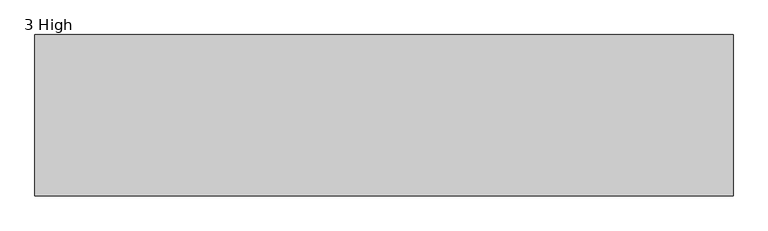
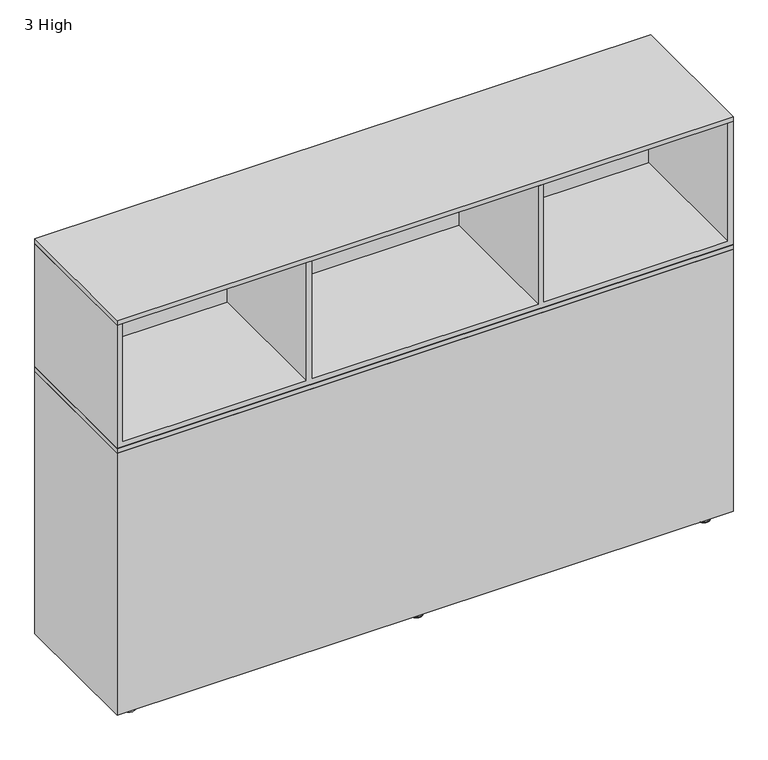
"""IFC4 building model written with IfcOpenShell, lengths in millimetres: furniture geometry, Steelcase Turnstone - Bivi - Storage - Depot : 3 High."""

from ifc_helpers import new_model, si_unit, point, frame, frame_2d, origin, place, context, project, spatial, polyline, circle_curve, ellipse_curve, trimmed, segment, composite_curve, outline, extrude, faceted_brep, source, transform, mapped, element, save
from ifc_brep_helpers import plane_surface, cylinder_surface, revolved_surface, spline_surface, advanced_brep


def furniture_3_high_ace3691c(model_context):
    return source(origin(), model_context, "Body", "SolidModel", [
        extrude(outline(polyline([(1524.0, 0.0), (1524.0, -352.425), (0.0, -352.425), (0.0, 0.0), (1524.0, 0.0)])), frame((0.0, 0.0, 711.2), z_axis=(0.0, 0.0, 1.0), x_axis=(1.0, 0.0, 0.0)), (0.0, 0.0, 1.0), 11.8411135),
        extrude(outline(polyline([(1524.0, 0.0), (1524.0, -352.425), (0.0, -352.425), (0.0, 0.0), (1524.0, 0.0)])), frame((0.0, 0.0, 1045.1923436), z_axis=(0.0, 0.0, 1.0), x_axis=(1.0, 0.0, 0.0)), (0.0, 0.0, 1.0), 12.5983953),
        faceted_brep([(1524.0, 0.0, 1045.1923436), (1524.0, -352.425, 1045.1923436), (1524.0, -352.425, 723.9), (1524.0, 0.0, 723.9), (0.0, 0.0, 1045.1923436), (0.0, 0.0, 723.9), (0.0, -352.425, 723.9), (0.0, -352.425, 1045.1923436), (1510.9189671, -352.425, 1045.1923436), (1510.9189671, -352.425, 736.6), (1054.3793919, -352.425, 736.6), (1054.3793919, -352.425, 1045.1923436), (1041.2984316, -352.425, 1045.1923436), (1041.2984316, -352.425, 736.6), (481.3553933, -352.425, 736.6), (481.3553933, -352.425, 1045.1923436), (468.2743967, -352.425, 1045.1923436), (468.2743967, -352.425, 736.6), (13.081, -352.425, 736.6), (13.081, -352.425, 1045.1923436), (13.081, -13.208, 1045.1923436), (468.2743967, -13.208, 1045.1923436), (481.3553933, -13.208, 1045.1923436), (1041.2984316, -13.208, 1045.1923436), (1054.3793919, -13.208, 1045.1923436), (1510.9189671, -13.208, 1045.1923436), (13.081, -13.208, 736.6), (468.2743967, -13.208, 736.6), (481.3553933, -13.208, 736.6), (1041.2984316, -13.208, 736.6), (1054.3793919, -13.208, 736.6), (1510.9189671, -13.208, 736.6)], [[[0, 1, 2, 3]], [[4, 5, 6, 7]], [[3, 5, 4, 0]], [[2, 6, 5, 3]], [[1, 8, 9, 10, 11, 12, 13, 14, 15, 16, 17, 18, 19, 7, 6, 2]], [[0, 4, 7, 19, 20, 21, 16, 15, 22, 23, 12, 11, 24, 25, 8, 1]], [[20, 19, 18, 26]], [[26, 18, 17, 27]], [[27, 17, 16, 21]], [[22, 15, 14, 28]], [[28, 14, 13, 29]], [[29, 13, 12, 23]], [[24, 11, 10, 30]], [[30, 10, 9, 31]], [[31, 9, 8, 25]], [[25, 24, 30, 31]], [[23, 22, 28, 29]], [[21, 20, 26, 27]]]),
        advanced_brep(
        [(776.7323801, -38.0780241, 2.6178944), (762.0156381, -38.0780241, 2.6178944), (747.2988961, -38.0780241, 2.6178944), (769.706563, -38.0780241, 8.8411838), (754.3247132, -38.0780241, 8.8411838), (769.706563, -38.0780241, 10.8986525), (754.3247132, -38.0780241, 10.8986525), (762.0156381, -38.0780241, 10.8986525)],
        [
            (0, 1),
            (1, 2),
            (2, 0, circle_curve(frame((762.0156381, -38.0780241, 2.6178944), z_axis=(0.0, 0.0, -1.0), x_axis=(-1.0, 0.0, 0.0)), 14.716742)),
            (0, 2, circle_curve(frame((762.0156381, -38.0780241, 2.6178944), z_axis=(0.0, 0.0, -1.0), x_axis=(-1.0, 0.0, 0.0)), 14.716742)),
            (3, 0, circle_curve(frame((776.0093917, -38.0780241, 8.8792349), z_axis=(0.0, -1.0, 0.0), x_axis=(-1.0, 0.0, 0.0)), 6.3029436)),
            (2, 4, circle_curve(frame((748.0218845, -38.0780241, 8.8792349), z_axis=(0.0, -1.0, 0.0), x_axis=(1.0, 0.0, 0.0)), 6.3029436)),
            (4, 3, circle_curve(frame((762.0156381, -38.0780241, 8.8411838), z_axis=(0.0, 0.0, -1.0), x_axis=(-1.0, 0.0, 0.0)), 7.6909249)),
            (3, 4, circle_curve(frame((762.0156381, -38.0780241, 8.8411838), z_axis=(0.0, 0.0, -1.0), x_axis=(-1.0, 0.0, 0.0)), 7.6909249)),
            (5, 3),
            (4, 6),
            (6, 5, circle_curve(frame((762.0156381, -38.0780241, 10.8986525), z_axis=(0.0, 0.0, -1.0), x_axis=(-1.0, 0.0, 0.0)), 7.6909249)),
            (5, 6, circle_curve(frame((762.0156381, -38.0780241, 10.8986525), z_axis=(0.0, 0.0, -1.0), x_axis=(-1.0, 0.0, 0.0)), 7.6909249)),
            (7, 5),
            (6, 7),
        ],
        [
            plane_surface(frame((762.0156381, -38.0780241, 2.6178944), z_axis=(0.0, 0.0, -1.0), x_axis=(-1.0, 0.0, 0.0))),
            revolved_surface(trimmed(ellipse_curve(frame((748.0218845, -38.0780241, 8.8792349), z_axis=(0.0, -1.0, 0.0), x_axis=(1.0, 0.0, 0.0)), 6.3029436, 6.3029436), [point((747.2988961, -38.0780241, 2.6178944))], [point((754.3247132, -38.0780241, 8.8411838))], True, "CARTESIAN"), (762.0156381, -38.0780241, 10.8986525), (0.0, 0.0, 1.0)),
            cylinder_surface(frame((762.0156381, -38.0780241, 10.8986525), z_axis=(0.0, 0.0, 1.0), x_axis=(-1.0, 0.0, 0.0)), 7.6909249),
            plane_surface(frame((762.0156381, -38.0780241, 10.8986525), z_axis=(0.0, 0.0, 1.0), x_axis=(-1.0, 0.0, 0.0))),
        ],
        [
            (0, [[1, 2, 3]]),
            (0, [[-2, -1, 4]]),
            (1, [[5, -3, 6, 7]]),
            (1, [[-6, -4, -5, 8]]),
            (2, [[9, -7, 10, 11]]),
            (2, [[-10, -8, -9, 12]]),
            (3, [[13, -11, 14]]),
            (3, [[-14, -12, -13]]),
        ],
    ),
        advanced_brep(
        [(775.1743443, -38.0780241, 0.0), (762.0269522, -38.0780241, 0.0), (748.8795601, -38.0780241, 0.0), (776.7550083, -38.0780241, 1.580664), (747.2988961, -38.0780241, 1.580664), (776.7550083, -38.0780241, 2.6178944), (747.2988961, -38.0780241, 2.6178944), (762.0269522, -38.0780241, 2.6178944)],
        [
            (0, 1),
            (1, 2),
            (2, 0, circle_curve(frame((762.0269522, -38.0780241, 0.0), z_axis=(0.0, 0.0, -1.0), x_axis=(-1.0, 0.0, 0.0)), 13.1473921)),
            (0, 2, circle_curve(frame((762.0269522, -38.0780241, 0.0), z_axis=(0.0, 0.0, -1.0), x_axis=(-1.0, 0.0, 0.0)), 13.1473921)),
            (3, 0, circle_curve(frame((775.1743443, -38.0780241, 1.580664), z_axis=(0.0, 1.0, 0.0), x_axis=(-1.0, 0.0, 0.0)), 1.580664)),
            (2, 4, circle_curve(frame((748.8795601, -38.0780241, 1.580664), z_axis=(0.0, 1.0, 0.0), x_axis=(1.0, 0.0, 0.0)), 1.580664)),
            (4, 3, circle_curve(frame((762.0269522, -38.0780241, 1.580664), z_axis=(0.0, 0.0, -1.0), x_axis=(-1.0, 0.0, 0.0)), 14.7280561)),
            (3, 4, circle_curve(frame((762.0269522, -38.0780241, 1.580664), z_axis=(0.0, 0.0, -1.0), x_axis=(-1.0, 0.0, 0.0)), 14.7280561)),
            (5, 3),
            (4, 6),
            (6, 5, circle_curve(frame((762.0269522, -38.0780241, 2.6178944), z_axis=(0.0, 0.0, -1.0), x_axis=(-1.0, 0.0, 0.0)), 14.7280561)),
            (5, 6, circle_curve(frame((762.0269522, -38.0780241, 2.6178944), z_axis=(0.0, 0.0, -1.0), x_axis=(-1.0, 0.0, 0.0)), 14.7280561)),
            (7, 5),
            (6, 7),
        ],
        [
            plane_surface(frame((762.0269522, -38.0780241, 0.0), z_axis=(0.0, 0.0, -1.0), x_axis=(-1.0, 0.0, 0.0))),
            revolved_surface(trimmed(ellipse_curve(frame((748.8795601, -38.0780241, 1.580664), z_axis=(0.0, 1.0, 0.0), x_axis=(1.0, 0.0, 0.0)), 1.580664, 1.580664), [point((748.8795601, -38.0780241, 0.0))], [point((747.2988961, -38.0780241, 1.580664))], True, "CARTESIAN"), (762.0269522, -38.0780241, 2.6178944), (0.0, 0.0, 1.0)),
            cylinder_surface(frame((762.0269522, -38.0780241, 2.6178944), z_axis=(0.0, 0.0, 1.0), x_axis=(-1.0, 0.0, 0.0)), 14.7280561),
            plane_surface(frame((762.0269522, -38.0780241, 2.6178944), z_axis=(0.0, 0.0, 1.0), x_axis=(-1.0, 0.0, 0.0))),
        ],
        [
            (0, [[1, 2, 3]]),
            (0, [[-2, -1, 4]]),
            (1, [[5, -3, 6, 7]]),
            (1, [[-6, -4, -5, 8]]),
            (2, [[9, -7, 10, 11]]),
            (2, [[-10, -8, -9, 12]]),
            (3, [[13, -11, 14]]),
            (3, [[-14, -12, -13]]),
        ],
    ),
        extrude(outline(composite_curve([segment(trimmed(circle_curve(frame_2d((762.0156381, -38.1183079)), 3.9557313), [point((758.0599068, -38.1183079))], [point((765.9713694, -38.1183079))], False, "CARTESIAN"), True, "CONTINUOUS"), segment(trimmed(circle_curve(frame_2d((762.0156381, -38.1183079)), 3.9557313), [point((765.9713694, -38.1183079))], [point((758.0599068, -38.1183079))], False, "CARTESIAN"), True, "CONTINUOUS")], self_intersect=False)), frame((0.0, 0.0, 10.8986525), z_axis=(0.0, 0.0, 1.0), x_axis=(1.0, 0.0, 0.0)), (0.0, 0.0, 1.0), 11.6640053),
        advanced_brep(
        [(758.0822362, -38.1098067, 22.5626578), (765.9722002, -38.1098067, 22.5626578), (759.079, -38.1098067, 23.622), (764.9502172, -38.1098067, 23.622)],
        [
            (0, 1, circle_curve(frame((762.0272182, -38.1098067, 22.5626578), z_axis=(0.0, 0.0, -1.0), x_axis=(1.0, 0.0, 0.0)), 3.944982)),
            (1, 0, circle_curve(frame((762.0272182, -38.1098067, 22.5626578), z_axis=(0.0, 0.0, -1.0), x_axis=(1.0, 0.0, 0.0)), 3.944982)),
            (2, 3, circle_curve(frame((762.0146086, -38.1098067, 23.622), z_axis=(0.0, 0.0, 1.0), x_axis=(1.0, 0.0, 0.0)), 2.9356086)),
            (3, 2, circle_curve(frame((762.0146086, -38.1098067, 23.622), z_axis=(0.0, 0.0, 1.0), x_axis=(1.0, 0.0, 0.0)), 2.9356086)),
            (2, 0),
            (1, 3),
        ],
        [
            plane_surface(frame((762.0272182, -38.1098067, 22.5626578), z_axis=(0.0, 0.0, -1.0), x_axis=(0.0, 1.0, 0.0))),
            plane_surface(frame((762.0146086, -38.1098067, 23.622), z_axis=(0.0, 0.0, 1.0), x_axis=(0.0, 1.0, 0.0))),
            spline_surface(1, 2, [[(759.079, -38.1098067, 23.622), (759.079, -41.04541530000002, 23.622), (762.0146086, -41.04541530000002, 23.622), (764.9502172, -41.04541530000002, 23.622), (764.9502172, -38.1098067, 23.622)], [(758.0822362, -38.1098067, 22.5626578), (758.0822362, -42.05478869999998, 22.5626578), (762.0272182, -42.05478869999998, 22.5626578), (765.9722002, -42.05478869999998, 22.5626578), (765.9722002, -38.1098067, 22.5626578)]], [2, 2], [3, 2, 3], [0.0, 1.0], [0.0, 1.0, 2.0], weights=[[1.0, 0.7071067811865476, 1.0, 0.7071067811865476, 1.0], [1.0, 0.7071067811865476, 1.0, 0.7071067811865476, 1.0]]),
            spline_surface(1, 2, [[(764.9502172, -38.1098067, 23.622), (764.9502172, -35.17419809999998, 23.622), (762.0146086, -35.17419809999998, 23.622), (759.079, -35.17419809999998, 23.622), (759.079, -38.1098067, 23.622)], [(765.9722002, -38.1098067, 22.5626578), (765.9722002, -34.16482470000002, 22.5626578), (762.0272182, -34.16482470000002, 22.5626578), (758.0822362, -34.16482470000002, 22.5626578), (758.0822362, -38.1098067, 22.5626578)]], [2, 2], [3, 2, 3], [0.0, 1.0], [0.0, 1.0, 2.0], weights=[[1.0, 0.7071067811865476, 1.0, 0.7071067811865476, 1.0], [1.0, 0.7071067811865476, 1.0, 0.7071067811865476, 1.0]]),
        ],
        [
            (0, [[1, 2]]),
            (1, [[3, 4]]),
            (2, [[5, -2, 6, -3]]),
            (3, [[-6, -1, -5, -4]]),
        ],
    ),
        advanced_brep(
        [(769.706563, -314.3469759, 10.8986525), (762.0156381, -314.3469759, 10.8986525), (754.3247132, -314.3469759, 10.8986525), (769.706563, -314.3469759, 8.8411838), (754.3247132, -314.3469759, 8.8411838), (776.7323801, -314.3469759, 2.6178944), (747.2988961, -314.3469759, 2.6178944), (762.0156381, -314.3469759, 2.6178944)],
        [
            (0, 1),
            (1, 2),
            (2, 0, circle_curve(frame((762.0156381, -314.3469759, 10.8986525), z_axis=(0.0, 0.0, 1.0), x_axis=(-1.0, 0.0, 0.0)), 7.6909249)),
            (0, 2, circle_curve(frame((762.0156381, -314.3469759, 10.8986525), z_axis=(0.0, 0.0, 1.0), x_axis=(-1.0, 0.0, 0.0)), 7.6909249)),
            (3, 0),
            (2, 4),
            (4, 3, circle_curve(frame((762.0156381, -314.3469759, 8.8411838), z_axis=(0.0, 0.0, 1.0), x_axis=(-1.0, 0.0, 0.0)), 7.6909249)),
            (3, 4, circle_curve(frame((762.0156381, -314.3469759, 8.8411838), z_axis=(0.0, 0.0, 1.0), x_axis=(-1.0, 0.0, 0.0)), 7.6909249)),
            (5, 3, circle_curve(frame((776.0093917, -314.3469759, 8.8792349), z_axis=(0.0, 1.0, 0.0), x_axis=(-1.0, 0.0, 0.0)), 6.3029436)),
            (4, 6, circle_curve(frame((748.0218845, -314.3469759, 8.8792349), z_axis=(0.0, 1.0, 0.0), x_axis=(1.0, 0.0, 0.0)), 6.3029436)),
            (6, 5, circle_curve(frame((762.0156381, -314.3469759, 2.6178944), z_axis=(0.0, 0.0, 1.0), x_axis=(-1.0, 0.0, 0.0)), 14.716742)),
            (5, 6, circle_curve(frame((762.0156381, -314.3469759, 2.6178944), z_axis=(0.0, 0.0, 1.0), x_axis=(-1.0, 0.0, 0.0)), 14.716742)),
            (7, 5),
            (6, 7),
        ],
        [
            plane_surface(frame((762.0156381, -314.3469759, 10.8986525), z_axis=(0.0, 0.0, 1.0), x_axis=(-1.0, 0.0, 0.0))),
            cylinder_surface(frame((762.0156381, -314.3469759, 10.8986525), z_axis=(0.0, 0.0, -1.0), x_axis=(-1.0, 0.0, 0.0)), 7.6909249),
            revolved_surface(trimmed(ellipse_curve(frame((748.0218845, -314.3469759, 8.8792349), z_axis=(0.0, 1.0, 0.0), x_axis=(1.0, 0.0, 0.0)), 6.3029436, 6.3029436), [point((754.3247132, -314.3469759, 8.8411838))], [point((747.2988961, -314.3469759, 2.6178944))], True, "CARTESIAN"), (762.0156381, -314.3469759, 10.8986525), (0.0, 0.0, -1.0)),
            plane_surface(frame((762.0156381, -314.3469759, 2.6178944), z_axis=(0.0, 0.0, -1.0), x_axis=(-1.0, 0.0, 0.0))),
        ],
        [
            (0, [[1, 2, 3]]),
            (0, [[-2, -1, 4]]),
            (1, [[5, -3, 6, 7]]),
            (1, [[-6, -4, -5, 8]]),
            (2, [[9, -7, 10, 11]]),
            (2, [[-10, -8, -9, 12]]),
            (3, [[13, -11, 14]]),
            (3, [[-14, -12, -13]]),
        ],
    ),
        advanced_brep(
        [(776.7550083, -314.3469759, 2.6178944), (762.0269522, -314.3469759, 2.6178944), (747.2988961, -314.3469759, 2.6178944), (776.7550083, -314.3469759, 1.580664), (747.2988961, -314.3469759, 1.580664), (775.1743443, -314.3469759, 0.0), (748.8795601, -314.3469759, 0.0), (762.0269522, -314.3469759, 0.0)],
        [
            (0, 1),
            (1, 2),
            (2, 0, circle_curve(frame((762.0269522, -314.3469759, 2.6178944), z_axis=(0.0, 0.0, 1.0), x_axis=(-1.0, 0.0, 0.0)), 14.7280561)),
            (0, 2, circle_curve(frame((762.0269522, -314.3469759, 2.6178944), z_axis=(0.0, 0.0, 1.0), x_axis=(-1.0, 0.0, 0.0)), 14.7280561)),
            (3, 0),
            (2, 4),
            (4, 3, circle_curve(frame((762.0269522, -314.3469759, 1.580664), z_axis=(0.0, 0.0, 1.0), x_axis=(-1.0, 0.0, 0.0)), 14.7280561)),
            (3, 4, circle_curve(frame((762.0269522, -314.3469759, 1.580664), z_axis=(0.0, 0.0, 1.0), x_axis=(-1.0, 0.0, 0.0)), 14.7280561)),
            (5, 3, circle_curve(frame((775.1743443, -314.3469759, 1.580664), z_axis=(0.0, -1.0, 0.0), x_axis=(-1.0, 0.0, 0.0)), 1.580664)),
            (4, 6, circle_curve(frame((748.8795601, -314.3469759, 1.580664), z_axis=(0.0, -1.0, 0.0), x_axis=(1.0, 0.0, 0.0)), 1.580664)),
            (6, 5, circle_curve(frame((762.0269522, -314.3469759, 0.0), z_axis=(0.0, 0.0, 1.0), x_axis=(-1.0, 0.0, 0.0)), 13.1473921)),
            (5, 6, circle_curve(frame((762.0269522, -314.3469759, 0.0), z_axis=(0.0, 0.0, 1.0), x_axis=(-1.0, 0.0, 0.0)), 13.1473921)),
            (7, 5),
            (6, 7),
        ],
        [
            plane_surface(frame((762.0269522, -314.3469759, 2.6178944), z_axis=(0.0, 0.0, 1.0), x_axis=(-1.0, 0.0, 0.0))),
            cylinder_surface(frame((762.0269522, -314.3469759, 2.6178944), z_axis=(0.0, 0.0, -1.0), x_axis=(-1.0, 0.0, 0.0)), 14.7280561),
            revolved_surface(trimmed(ellipse_curve(frame((748.8795601, -314.3469759, 1.580664), z_axis=(0.0, -1.0, 0.0), x_axis=(1.0, 0.0, 0.0)), 1.580664, 1.580664), [point((747.2988961, -314.3469759, 1.580664))], [point((748.8795601, -314.3469759, 0.0))], True, "CARTESIAN"), (762.0269522, -314.3469759, 2.6178944), (0.0, 0.0, -1.0)),
            plane_surface(frame((762.0269522, -314.3469759, 0.0), z_axis=(0.0, 0.0, -1.0), x_axis=(-1.0, 0.0, 0.0))),
        ],
        [
            (0, [[1, 2, 3]]),
            (0, [[-2, -1, 4]]),
            (1, [[5, -3, 6, 7]]),
            (1, [[-6, -4, -5, 8]]),
            (2, [[9, -7, 10, 11]]),
            (2, [[-10, -8, -9, 12]]),
            (3, [[13, -11, 14]]),
            (3, [[-14, -12, -13]]),
        ],
    ),
        extrude(outline(composite_curve([segment(trimmed(circle_curve(frame_2d((762.0156381, -314.3066921)), 3.9557313), [point((758.0599068, -314.3066921))], [point((765.9713694, -314.3066921))], False, "CARTESIAN"), True, "CONTINUOUS"), segment(trimmed(circle_curve(frame_2d((762.0156381, -314.3066921)), 3.9557313), [point((765.9713694, -314.3066921))], [point((758.0599068, -314.3066921))], False, "CARTESIAN"), True, "CONTINUOUS")], self_intersect=False)), frame((0.0, 0.0, 10.8986525), z_axis=(0.0, 0.0, 1.0), x_axis=(1.0, 0.0, 0.0)), (0.0, 0.0, 1.0), 11.6640053),
        advanced_brep(
        [(758.0822362, -314.3151933, 22.5626578), (765.9722002, -314.3151933, 22.5626578), (759.079, -314.3151933, 23.622), (764.9502172, -314.3151933, 23.622)],
        [
            (0, 1, circle_curve(frame((762.0272182, -314.3151933, 22.5626578), z_axis=(0.0, 0.0, -1.0), x_axis=(1.0, 0.0, 0.0)), 3.944982)),
            (1, 0, circle_curve(frame((762.0272182, -314.3151933, 22.5626578), z_axis=(0.0, 0.0, -1.0), x_axis=(1.0, 0.0, 0.0)), 3.944982)),
            (2, 3, circle_curve(frame((762.0146086, -314.3151933, 23.622), z_axis=(0.0, 0.0, 1.0), x_axis=(1.0, 0.0, 0.0)), 2.9356086)),
            (3, 2, circle_curve(frame((762.0146086, -314.3151933, 23.622), z_axis=(0.0, 0.0, 1.0), x_axis=(1.0, 0.0, 0.0)), 2.9356086)),
            (2, 0),
            (1, 3),
        ],
        [
            plane_surface(frame((762.0272182, -314.3151933, 22.5626578), z_axis=(0.0, 0.0, -1.0), x_axis=(0.0, 1.0, 0.0))),
            plane_surface(frame((762.0146086, -314.3151933, 23.622), z_axis=(0.0, 0.0, 1.0), x_axis=(0.0, 1.0, 0.0))),
            spline_surface(1, 2, [[(759.079, -314.3151933, 23.622), (759.079, -317.2508019, 23.622), (762.0146086, -317.2508019, 23.622), (764.9502172, -317.2508019, 23.622), (764.9502172, -314.3151933, 23.622)], [(758.0822362, -314.3151933, 22.5626578), (758.0822362, -318.26017529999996, 22.5626578), (762.0272182, -318.26017529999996, 22.5626578), (765.9722002, -318.26017529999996, 22.5626578), (765.9722002, -314.3151933, 22.5626578)]], [2, 2], [3, 2, 3], [0.0, 1.0], [0.0, 1.0, 2.0], weights=[[1.0, 0.7071067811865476, 1.0, 0.7071067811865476, 1.0], [1.0, 0.7071067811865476, 1.0, 0.7071067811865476, 1.0]]),
            spline_surface(1, 2, [[(764.9502172, -314.3151933, 23.622), (764.9502172, -311.37958469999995, 23.622), (762.0146086, -311.37958469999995, 23.622), (759.079, -311.37958469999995, 23.622), (759.079, -314.3151933, 23.622)], [(765.9722002, -314.3151933, 22.5626578), (765.9722002, -310.3702113, 22.5626578), (762.0272182, -310.3702113, 22.5626578), (758.0822362, -310.3702113, 22.5626578), (758.0822362, -314.3151933, 22.5626578)]], [2, 2], [3, 2, 3], [0.0, 1.0], [0.0, 1.0, 2.0], weights=[[1.0, 0.7071067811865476, 1.0, 0.7071067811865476, 1.0], [1.0, 0.7071067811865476, 1.0, 0.7071067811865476, 1.0]]),
        ],
        [
            (0, [[1, 2]]),
            (1, [[3, 4]]),
            (2, [[5, -2, 6, -3]]),
            (3, [[-6, -1, -5, -4]]),
        ],
    ),
        faceted_brep([(0.0, 0.0, 711.2), (13.081, 0.0, 711.2), (13.081, 0.0, 381.0), (468.2743967, 0.0, 381.0), (468.2743967, 0.0, 711.2), (481.3553933, 0.0, 711.2), (481.3553933, 0.0, 381.0), (1041.2984316, 0.0, 381.0), (1041.2984316, 0.0, 711.2), (1054.3793919, 0.0, 711.2), (1054.3793919, 0.0, 381.0), (1510.9189671, 0.0, 381.0), (1510.9189671, 0.0, 711.2), (1524.0, 0.0, 711.2), (1524.0, 0.0, 25.4), (0.0, 0.0, 25.4), (13.081, 0.0, 368.3), (13.081, 0.0, 38.1), (468.2743967, 0.0, 38.1), (468.2743967, 0.0, 368.3), (481.3553933, 0.0, 368.3), (481.3553933, 0.0, 38.1), (1041.2984316, 0.0, 38.1), (1041.2984316, 0.0, 368.3), (1054.3793919, 0.0, 368.3), (1054.3793919, 0.0, 38.1), (1510.9189671, 0.0, 38.1), (1510.9189671, 0.0, 368.3), (1524.0, -352.425, 711.2), (0.0, -352.425, 711.2), (0.0, -352.425, 25.4), (1524.0, -352.425, 25.4), (1510.9189671, -339.344, 711.2), (1054.3793919, -339.344, 711.2), (1041.2984316, -339.344, 711.2), (481.3553933, -339.344, 711.2), (468.2743967, -339.344, 711.2), (13.081, -339.344, 711.2), (468.2743967, -339.344, 381.0), (13.081, -339.344, 381.0), (1041.2984316, -339.344, 381.0), (481.3553933, -339.344, 381.0), (1510.9189671, -339.344, 381.0), (1054.3793919, -339.344, 381.0), (468.2743967, -339.344, 368.3), (468.2743967, -339.344, 38.1), (13.081, -339.344, 38.1), (13.081, -339.344, 368.3), (1041.2984316, -339.344, 368.3), (1041.2984316, -339.344, 38.1), (481.3553933, -339.344, 38.1), (481.3553933, -339.344, 368.3), (1510.9189671, -339.344, 368.3), (1510.9189671, -339.344, 38.1), (1054.3793919, -339.344, 38.1), (1054.3793919, -339.344, 368.3)], [[[0, 1, 2, 3, 4, 5, 6, 7, 8, 9, 10, 11, 12, 13, 14, 15], [16, 17, 18, 19], [20, 21, 22, 23], [24, 25, 26, 27]], [[28, 29, 30, 31]], [[28, 13, 12, 32, 33, 9, 8, 34, 35, 5, 4, 36, 37, 1, 0, 29]], [[15, 30, 29, 0]], [[14, 31, 30, 15]], [[13, 28, 31, 14]], [[37, 36, 38, 39]], [[35, 34, 40, 41]], [[33, 32, 42, 43]], [[44, 45, 46, 47]], [[48, 49, 50, 51]], [[52, 53, 54, 55]], [[39, 2, 1, 37]], [[38, 3, 2, 39]], [[36, 4, 3, 38]], [[41, 6, 5, 35]], [[40, 7, 6, 41]], [[34, 8, 7, 40]], [[43, 10, 9, 33]], [[42, 11, 10, 43]], [[32, 12, 11, 42]], [[47, 16, 19, 44]], [[46, 17, 16, 47]], [[45, 18, 17, 46]], [[44, 19, 18, 45]], [[51, 20, 23, 48]], [[50, 21, 20, 51]], [[49, 22, 21, 50]], [[48, 23, 22, 49]], [[55, 24, 27, 52]], [[54, 25, 24, 55]], [[53, 26, 25, 54]], [[52, 27, 26, 53]]]),
        extrude(outline(polyline([(25.4000008, -13.0809966), (76.2, -13.0809966), (76.2, -339.344), (25.4000008, -339.344), (25.4000008, -13.0809966)])), frame((0.0, 0.0, 15.8750011), z_axis=(0.0, 0.0, 1.0), x_axis=(1.0, 0.0, 0.0)), (0.0, 0.0, 1.0), 9.5249989),
        extrude(outline(polyline([(736.6000242, -13.0809966), (787.4000235, -13.0809966), (787.4000235, -339.344), (736.6000242, -339.344), (736.6000242, -13.0809966)])), frame((0.0, 0.0, 15.8750011), z_axis=(0.0, 0.0, 1.0), x_axis=(1.0, 0.0, 0.0)), (0.0, 0.0, 1.0), 9.5249989),
        extrude(outline(polyline([(1447.8, -13.0809966), (1498.5999992, -13.0809966), (1498.5999992, -339.344), (1447.8, -339.344), (1447.8, -13.0809966)])), frame((0.0, 0.0, 15.8750011), z_axis=(0.0, 0.0, 1.0), x_axis=(1.0, 0.0, 0.0)), (0.0, 0.0, 1.0), 9.5249989),
        advanced_brep(
        [(1465.5173965, -38.0780241, 10.8986525), (1473.2083214, -38.0780241, 10.8986525), (1480.8992463, -38.0780241, 10.8986525), (1465.5173965, -38.0780241, 8.8411838), (1480.8992463, -38.0780241, 8.8411838), (1458.4915794, -38.0780241, 2.6178944), (1487.9250634, -38.0780241, 2.6178944), (1473.2083214, -38.0780241, 2.6178944)],
        [
            (0, 1),
            (1, 2),
            (2, 0, circle_curve(frame((1473.2083214, -38.0780241, 10.8986525), z_axis=(0.0, 0.0, 1.0), x_axis=(1.0, 0.0, 0.0)), 7.6909249)),
            (0, 2, circle_curve(frame((1473.2083214, -38.0780241, 10.8986525), z_axis=(0.0, 0.0, 1.0), x_axis=(1.0, 0.0, 0.0)), 7.6909249)),
            (3, 0),
            (2, 4),
            (4, 3, circle_curve(frame((1473.2083214, -38.0780241, 8.8411838), z_axis=(0.0, 0.0, 1.0), x_axis=(1.0, 0.0, 0.0)), 7.6909249)),
            (3, 4, circle_curve(frame((1473.2083214, -38.0780241, 8.8411838), z_axis=(0.0, 0.0, 1.0), x_axis=(1.0, 0.0, 0.0)), 7.6909249)),
            (5, 3, circle_curve(frame((1459.2145678, -38.0780241, 8.8792349), z_axis=(0.0, -1.0, 0.0), x_axis=(1.0, 0.0, 0.0)), 6.3029436)),
            (4, 6, circle_curve(frame((1487.202075, -38.0780241, 8.8792349), z_axis=(0.0, -1.0, 0.0), x_axis=(-1.0, 0.0, 0.0)), 6.3029436)),
            (6, 5, circle_curve(frame((1473.2083214, -38.0780241, 2.6178944), z_axis=(0.0, 0.0, 1.0), x_axis=(1.0, 0.0, 0.0)), 14.716742)),
            (5, 6, circle_curve(frame((1473.2083214, -38.0780241, 2.6178944), z_axis=(0.0, 0.0, 1.0), x_axis=(1.0, 0.0, 0.0)), 14.716742)),
            (7, 5),
            (6, 7),
        ],
        [
            plane_surface(frame((1473.2083214, -38.0780241, 10.8986525), z_axis=(0.0, 0.0, 1.0), x_axis=(1.0, 0.0, 0.0))),
            cylinder_surface(frame((1473.2083214, -38.0780241, 10.8986525), z_axis=(0.0, 0.0, -1.0), x_axis=(1.0, 0.0, 0.0)), 7.6909249),
            revolved_surface(trimmed(ellipse_curve(frame((1487.202075, -38.0780241, 8.8792349), z_axis=(0.0, -1.0, 0.0), x_axis=(-1.0, 0.0, 0.0)), 6.3029436, 6.3029436), [point((1480.8992463, -38.0780241, 8.8411838))], [point((1487.9250634, -38.0780241, 2.6178944))], True, "CARTESIAN"), (1473.2083214, -38.0780241, 10.8986525), (0.0, 0.0, -1.0)),
            plane_surface(frame((1473.2083214, -38.0780241, 2.6178944), z_axis=(0.0, 0.0, -1.0), x_axis=(1.0, 0.0, 0.0))),
        ],
        [
            (0, [[1, 2, 3]]),
            (0, [[-2, -1, 4]]),
            (1, [[5, -3, 6, 7]]),
            (1, [[-6, -4, -5, 8]]),
            (2, [[9, -7, 10, 11]]),
            (2, [[-10, -8, -9, 12]]),
            (3, [[13, -11, 14]]),
            (3, [[-14, -12, -13]]),
        ],
    ),
        advanced_brep(
        [(1458.4689512, -38.0780241, 2.6178944), (1473.1970073, -38.0780241, 2.6178944), (1487.9250634, -38.0780241, 2.6178944), (1458.4689512, -38.0780241, 1.580664), (1487.9250634, -38.0780241, 1.580664), (1460.0496152, -38.0780241, 0.0), (1486.3443994, -38.0780241, 0.0), (1473.1970073, -38.0780241, 0.0)],
        [
            (0, 1),
            (1, 2),
            (2, 0, circle_curve(frame((1473.1970073, -38.0780241, 2.6178944), z_axis=(0.0, 0.0, 1.0), x_axis=(1.0, 0.0, 0.0)), 14.7280561)),
            (0, 2, circle_curve(frame((1473.1970073, -38.0780241, 2.6178944), z_axis=(0.0, 0.0, 1.0), x_axis=(1.0, 0.0, 0.0)), 14.7280561)),
            (3, 0),
            (2, 4),
            (4, 3, circle_curve(frame((1473.1970073, -38.0780241, 1.580664), z_axis=(0.0, 0.0, 1.0), x_axis=(1.0, 0.0, 0.0)), 14.7280561)),
            (3, 4, circle_curve(frame((1473.1970073, -38.0780241, 1.580664), z_axis=(0.0, 0.0, 1.0), x_axis=(1.0, 0.0, 0.0)), 14.7280561)),
            (5, 3, circle_curve(frame((1460.0496152, -38.0780241, 1.580664), z_axis=(0.0, 1.0, 0.0), x_axis=(1.0, 0.0, 0.0)), 1.580664)),
            (4, 6, circle_curve(frame((1486.3443994, -38.0780241, 1.580664), z_axis=(0.0, 1.0, 0.0), x_axis=(-1.0, 0.0, 0.0)), 1.580664)),
            (6, 5, circle_curve(frame((1473.1970073, -38.0780241, 0.0), z_axis=(0.0, 0.0, 1.0), x_axis=(1.0, 0.0, 0.0)), 13.1473921)),
            (5, 6, circle_curve(frame((1473.1970073, -38.0780241, 0.0), z_axis=(0.0, 0.0, 1.0), x_axis=(1.0, 0.0, 0.0)), 13.1473921)),
            (7, 5),
            (6, 7),
        ],
        [
            plane_surface(frame((1473.1970073, -38.0780241, 2.6178944), z_axis=(0.0, 0.0, 1.0), x_axis=(1.0, 0.0, 0.0))),
            cylinder_surface(frame((1473.1970073, -38.0780241, 2.6178944), z_axis=(0.0, 0.0, -1.0), x_axis=(1.0, 0.0, 0.0)), 14.7280561),
            revolved_surface(trimmed(ellipse_curve(frame((1486.3443994, -38.0780241, 1.580664), z_axis=(0.0, 1.0, 0.0), x_axis=(-1.0, 0.0, 0.0)), 1.580664, 1.580664), [point((1487.9250634, -38.0780241, 1.580664))], [point((1486.3443994, -38.0780241, 0.0))], True, "CARTESIAN"), (1473.1970073, -38.0780241, 2.6178944), (0.0, 0.0, -1.0)),
            plane_surface(frame((1473.1970073, -38.0780241, 0.0), z_axis=(0.0, 0.0, -1.0), x_axis=(1.0, 0.0, 0.0))),
        ],
        [
            (0, [[1, 2, 3]]),
            (0, [[-2, -1, 4]]),
            (1, [[5, -3, 6, 7]]),
            (1, [[-6, -4, -5, 8]]),
            (2, [[9, -7, 10, 11]]),
            (2, [[-10, -8, -9, 12]]),
            (3, [[13, -11, 14]]),
            (3, [[-14, -12, -13]]),
        ],
    ),
        extrude(outline(composite_curve([segment(trimmed(circle_curve(frame_2d((1473.2083214, -38.1183079)), 3.9557313), [point((1477.1640527, -38.1183079))], [point((1469.2525901, -38.1183079))], False, "CARTESIAN"), True, "CONTINUOUS"), segment(trimmed(circle_curve(frame_2d((1473.2083214, -38.1183079)), 3.9557313), [point((1469.2525901, -38.1183079))], [point((1477.1640527, -38.1183079))], False, "CARTESIAN"), True, "CONTINUOUS")], self_intersect=False)), frame((0.0, 0.0, 10.8986525), z_axis=(0.0, 0.0, 1.0), x_axis=(1.0, 0.0, 0.0)), (0.0, 0.0, 1.0), 11.6640053),
        advanced_brep(
        [(1477.1417233, -38.1098067, 22.5626578), (1469.2517593, -38.1098067, 22.5626578), (1476.1449595, -38.1098067, 23.622), (1470.2737423, -38.1098067, 23.622)],
        [
            (0, 1, circle_curve(frame((1473.1967413, -38.1098067, 22.5626578), z_axis=(0.0, 0.0, -1.0), x_axis=(-1.0, 0.0, 0.0)), 3.944982)),
            (1, 0, circle_curve(frame((1473.1967413, -38.1098067, 22.5626578), z_axis=(0.0, 0.0, -1.0), x_axis=(-1.0, 0.0, 0.0)), 3.944982)),
            (2, 3, circle_curve(frame((1473.2093509, -38.1098067, 23.622), z_axis=(0.0, 0.0, 1.0), x_axis=(-1.0, 0.0, 0.0)), 2.9356086)),
            (3, 2, circle_curve(frame((1473.2093509, -38.1098067, 23.622), z_axis=(0.0, 0.0, 1.0), x_axis=(-1.0, 0.0, 0.0)), 2.9356086)),
            (2, 0),
            (1, 3),
        ],
        [
            plane_surface(frame((1473.1967413, -38.1098067, 22.5626578), z_axis=(0.0, 0.0, -1.0), x_axis=(0.0, -1.0, 0.0))),
            plane_surface(frame((1473.2093509, -38.1098067, 23.622), z_axis=(0.0, 0.0, 1.0), x_axis=(0.0, -1.0, 0.0))),
            spline_surface(1, 2, [[(1476.1449595, -38.1098067, 23.622), (1476.1449595, -35.17419809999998, 23.622), (1473.2093509, -35.17419809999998, 23.622), (1470.2737422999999, -35.17419809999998, 23.622), (1470.2737423, -38.1098067, 23.622)], [(1477.1417233, -38.1098067, 22.5626578), (1477.1417233, -34.16482470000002, 22.5626578), (1473.1967413, -34.16482470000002, 22.5626578), (1469.2517593, -34.16482470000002, 22.5626578), (1469.2517593, -38.1098067, 22.5626578)]], [2, 2], [3, 2, 3], [0.0, 1.0], [0.0, 1.0, 2.0], weights=[[1.0, 0.7071067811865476, 1.0, 0.7071067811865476, 1.0], [1.0, 0.7071067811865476, 1.0, 0.7071067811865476, 1.0]]),
            spline_surface(1, 2, [[(1470.2737423, -38.1098067, 23.622), (1470.2737423, -41.045415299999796, 23.622), (1473.2093509, -41.045415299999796, 23.622), (1476.1449594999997, -41.045415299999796, 23.622), (1476.1449595, -38.1098067, 23.622)], [(1469.2517593, -38.1098067, 22.5626578), (1469.2517593, -42.05478869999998, 22.5626578), (1473.1967413, -42.05478869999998, 22.5626578), (1477.1417233, -42.05478869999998, 22.5626578), (1477.1417233, -38.1098067, 22.5626578)]], [2, 2], [3, 2, 3], [0.0, 1.0], [0.0, 1.0, 2.0], weights=[[1.0, 0.7071067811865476, 1.0, 0.7071067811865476, 1.0], [1.0, 0.7071067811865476, 1.0, 0.7071067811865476, 1.0]]),
        ],
        [
            (0, [[1, 2]]),
            (1, [[3, 4]]),
            (2, [[5, -2, 6, -3]]),
            (3, [[-6, -1, -5, -4]]),
        ],
    ),
        advanced_brep(
        [(65.5084206, -38.0780241, 2.6178944), (50.7916786, -38.0780241, 2.6178944), (36.0749366, -38.0780241, 2.6178944), (58.4826035, -38.0780241, 8.8411838), (43.1007537, -38.0780241, 8.8411838), (58.4826035, -38.0780241, 10.8986525), (43.1007537, -38.0780241, 10.8986525), (50.7916786, -38.0780241, 10.8986525)],
        [
            (0, 1),
            (1, 2),
            (2, 0, circle_curve(frame((50.7916786, -38.0780241, 2.6178944), z_axis=(0.0, 0.0, -1.0), x_axis=(-1.0, 0.0, 0.0)), 14.716742)),
            (0, 2, circle_curve(frame((50.7916786, -38.0780241, 2.6178944), z_axis=(0.0, 0.0, -1.0), x_axis=(-1.0, 0.0, 0.0)), 14.716742)),
            (3, 0, circle_curve(frame((64.7854322, -38.0780241, 8.8792349), z_axis=(0.0, -1.0, 0.0), x_axis=(-1.0, 0.0, 0.0)), 6.3029436)),
            (2, 4, circle_curve(frame((36.797925, -38.0780241, 8.8792349), z_axis=(0.0, -1.0, 0.0), x_axis=(1.0, 0.0, 0.0)), 6.3029436)),
            (4, 3, circle_curve(frame((50.7916786, -38.0780241, 8.8411838), z_axis=(0.0, 0.0, -1.0), x_axis=(-1.0, 0.0, 0.0)), 7.6909249)),
            (3, 4, circle_curve(frame((50.7916786, -38.0780241, 8.8411838), z_axis=(0.0, 0.0, -1.0), x_axis=(-1.0, 0.0, 0.0)), 7.6909249)),
            (5, 3),
            (4, 6),
            (6, 5, circle_curve(frame((50.7916786, -38.0780241, 10.8986525), z_axis=(0.0, 0.0, -1.0), x_axis=(-1.0, 0.0, 0.0)), 7.6909249)),
            (5, 6, circle_curve(frame((50.7916786, -38.0780241, 10.8986525), z_axis=(0.0, 0.0, -1.0), x_axis=(-1.0, 0.0, 0.0)), 7.6909249)),
            (7, 5),
            (6, 7),
        ],
        [
            plane_surface(frame((50.7916786, -38.0780241, 2.6178944), z_axis=(0.0, 0.0, -1.0), x_axis=(-1.0, 0.0, 0.0))),
            revolved_surface(trimmed(ellipse_curve(frame((36.797925, -38.0780241, 8.8792349), z_axis=(0.0, -1.0, 0.0), x_axis=(1.0, 0.0, 0.0)), 6.3029436, 6.3029436), [point((36.0749366, -38.0780241, 2.6178944))], [point((43.1007537, -38.0780241, 8.8411838))], True, "CARTESIAN"), (50.7916786, -38.0780241, 10.8986525), (0.0, 0.0, 1.0)),
            cylinder_surface(frame((50.7916786, -38.0780241, 10.8986525), z_axis=(0.0, 0.0, 1.0), x_axis=(-1.0, 0.0, 0.0)), 7.6909249),
            plane_surface(frame((50.7916786, -38.0780241, 10.8986525), z_axis=(0.0, 0.0, 1.0), x_axis=(-1.0, 0.0, 0.0))),
        ],
        [
            (0, [[1, 2, 3]]),
            (0, [[-2, -1, 4]]),
            (1, [[5, -3, 6, 7]]),
            (1, [[-6, -4, -5, 8]]),
            (2, [[9, -7, 10, 11]]),
            (2, [[-10, -8, -9, 12]]),
            (3, [[13, -11, 14]]),
            (3, [[-14, -12, -13]]),
        ],
    ),
        advanced_brep(
        [(63.9503848, -38.0780241, 0.0), (50.8029927, -38.0780241, 0.0), (37.6556006, -38.0780241, 0.0), (65.5310488, -38.0780241, 1.580664), (36.0749366, -38.0780241, 1.580664), (65.5310488, -38.0780241, 2.6178944), (36.0749366, -38.0780241, 2.6178944), (50.8029927, -38.0780241, 2.6178944)],
        [
            (0, 1),
            (1, 2),
            (2, 0, circle_curve(frame((50.8029927, -38.0780241, 0.0), z_axis=(0.0, 0.0, -1.0), x_axis=(-1.0, 0.0, 0.0)), 13.1473921)),
            (0, 2, circle_curve(frame((50.8029927, -38.0780241, 0.0), z_axis=(0.0, 0.0, -1.0), x_axis=(-1.0, 0.0, 0.0)), 13.1473921)),
            (3, 0, circle_curve(frame((63.9503848, -38.0780241, 1.580664), z_axis=(0.0, 1.0, 0.0), x_axis=(-1.0, 0.0, 0.0)), 1.580664)),
            (2, 4, circle_curve(frame((37.6556006, -38.0780241, 1.580664), z_axis=(0.0, 1.0, 0.0), x_axis=(1.0, 0.0, 0.0)), 1.580664)),
            (4, 3, circle_curve(frame((50.8029927, -38.0780241, 1.580664), z_axis=(0.0, 0.0, -1.0), x_axis=(-1.0, 0.0, 0.0)), 14.7280561)),
            (3, 4, circle_curve(frame((50.8029927, -38.0780241, 1.580664), z_axis=(0.0, 0.0, -1.0), x_axis=(-1.0, 0.0, 0.0)), 14.7280561)),
            (5, 3),
            (4, 6),
            (6, 5, circle_curve(frame((50.8029927, -38.0780241, 2.6178944), z_axis=(0.0, 0.0, -1.0), x_axis=(-1.0, 0.0, 0.0)), 14.7280561)),
            (5, 6, circle_curve(frame((50.8029927, -38.0780241, 2.6178944), z_axis=(0.0, 0.0, -1.0), x_axis=(-1.0, 0.0, 0.0)), 14.7280561)),
            (7, 5),
            (6, 7),
        ],
        [
            plane_surface(frame((50.8029927, -38.0780241, 0.0), z_axis=(0.0, 0.0, -1.0), x_axis=(-1.0, 0.0, 0.0))),
            revolved_surface(trimmed(ellipse_curve(frame((37.6556006, -38.0780241, 1.580664), z_axis=(0.0, 1.0, 0.0), x_axis=(1.0, 0.0, 0.0)), 1.580664, 1.580664), [point((37.6556006, -38.0780241, 0.0))], [point((36.0749366, -38.0780241, 1.580664))], True, "CARTESIAN"), (50.8029927, -38.0780241, 2.6178944), (0.0, 0.0, 1.0)),
            cylinder_surface(frame((50.8029927, -38.0780241, 2.6178944), z_axis=(0.0, 0.0, 1.0), x_axis=(-1.0, 0.0, 0.0)), 14.7280561),
            plane_surface(frame((50.8029927, -38.0780241, 2.6178944), z_axis=(0.0, 0.0, 1.0), x_axis=(-1.0, 0.0, 0.0))),
        ],
        [
            (0, [[1, 2, 3]]),
            (0, [[-2, -1, 4]]),
            (1, [[5, -3, 6, 7]]),
            (1, [[-6, -4, -5, 8]]),
            (2, [[9, -7, 10, 11]]),
            (2, [[-10, -8, -9, 12]]),
            (3, [[13, -11, 14]]),
            (3, [[-14, -12, -13]]),
        ],
    ),
        extrude(outline(composite_curve([segment(trimmed(circle_curve(frame_2d((50.7916786, -38.1183079)), 3.9557313), [point((46.8359473, -38.1183079))], [point((54.7474099, -38.1183079))], False, "CARTESIAN"), True, "CONTINUOUS"), segment(trimmed(circle_curve(frame_2d((50.7916786, -38.1183079)), 3.9557313), [point((54.7474099, -38.1183079))], [point((46.8359473, -38.1183079))], False, "CARTESIAN"), True, "CONTINUOUS")], self_intersect=False)), frame((0.0, 0.0, 10.8986525), z_axis=(0.0, 0.0, 1.0), x_axis=(1.0, 0.0, 0.0)), (0.0, 0.0, 1.0), 11.6640053),
        advanced_brep(
        [(46.8582767, -38.1098067, 22.5626578), (54.7482407, -38.1098067, 22.5626578), (47.8550405, -38.1098067, 23.622), (53.7262577, -38.1098067, 23.622)],
        [
            (0, 1, circle_curve(frame((50.8032587, -38.1098067, 22.5626578), z_axis=(0.0, 0.0, -1.0), x_axis=(1.0, 0.0, 0.0)), 3.944982)),
            (1, 0, circle_curve(frame((50.8032587, -38.1098067, 22.5626578), z_axis=(0.0, 0.0, -1.0), x_axis=(1.0, 0.0, 0.0)), 3.944982)),
            (2, 3, circle_curve(frame((50.7906491, -38.1098067, 23.622), z_axis=(0.0, 0.0, 1.0), x_axis=(1.0, 0.0, 0.0)), 2.9356086)),
            (3, 2, circle_curve(frame((50.7906491, -38.1098067, 23.622), z_axis=(0.0, 0.0, 1.0), x_axis=(1.0, 0.0, 0.0)), 2.9356086)),
            (2, 0),
            (1, 3),
        ],
        [
            plane_surface(frame((50.8032587, -38.1098067, 22.5626578), z_axis=(0.0, 0.0, -1.0), x_axis=(0.0, 1.0, 0.0))),
            plane_surface(frame((50.7906491, -38.1098067, 23.622), z_axis=(0.0, 0.0, 1.0), x_axis=(0.0, 1.0, 0.0))),
            spline_surface(1, 2, [[(47.8550405, -38.1098067, 23.622), (47.8550405, -41.0454153, 23.622), (50.7906491, -41.0454153, 23.622), (53.726257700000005, -41.04541530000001, 23.622), (53.7262577, -38.1098067, 23.622)], [(46.8582767, -38.1098067, 22.5626578), (46.8582767, -42.0547887, 22.5626578), (50.8032587, -42.0547887, 22.5626578), (54.748240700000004, -42.05478870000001, 22.5626578), (54.7482407, -38.1098067, 22.5626578)]], [2, 2], [3, 2, 3], [0.0, 1.0], [0.0, 1.0, 2.0], weights=[[1.0, 0.7071067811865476, 1.0, 0.7071067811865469, 1.0], [1.0, 0.7071067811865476, 1.0, 0.7071067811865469, 1.0]]),
            spline_surface(1, 2, [[(53.7262577, -38.1098067, 23.622), (53.7262577, -35.174198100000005, 23.622), (50.7906491, -35.174198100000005, 23.622), (47.85504050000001, -35.17419810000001, 23.622), (47.8550405, -38.1098067, 23.622)], [(54.7482407, -38.1098067, 22.5626578), (54.7482407, -34.164824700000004, 22.5626578), (50.8032587, -34.164824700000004, 22.5626578), (46.858276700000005, -34.16482470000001, 22.5626578), (46.8582767, -38.1098067, 22.5626578)]], [2, 2], [3, 2, 3], [0.0, 1.0], [0.0, 1.0, 2.0], weights=[[1.0, 0.7071067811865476, 1.0, 0.7071067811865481, 1.0], [1.0, 0.7071067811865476, 1.0, 0.7071067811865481, 1.0]]),
        ],
        [
            (0, [[1, 2]]),
            (1, [[3, 4]]),
            (2, [[5, -2, 6, -3]]),
            (3, [[-6, -1, -5, -4]]),
        ],
    ),
        advanced_brep(
        [(1458.4915794, -314.3469759, 2.6178944), (1473.2083214, -314.3469759, 2.6178944), (1487.9250634, -314.3469759, 2.6178944), (1465.5173965, -314.3469759, 8.8411838), (1480.8992463, -314.3469759, 8.8411838), (1465.5173965, -314.3469759, 10.8986525), (1480.8992463, -314.3469759, 10.8986525), (1473.2083214, -314.3469759, 10.8986525)],
        [
            (0, 1),
            (1, 2),
            (2, 0, circle_curve(frame((1473.2083214, -314.3469759, 2.6178944), z_axis=(0.0, 0.0, -1.0), x_axis=(1.0, 0.0, 0.0)), 14.716742)),
            (0, 2, circle_curve(frame((1473.2083214, -314.3469759, 2.6178944), z_axis=(0.0, 0.0, -1.0), x_axis=(1.0, 0.0, 0.0)), 14.716742)),
            (3, 0, circle_curve(frame((1459.2145678, -314.3469759, 8.8792349), z_axis=(0.0, 1.0, 0.0), x_axis=(1.0, 0.0, 0.0)), 6.3029436)),
            (2, 4, circle_curve(frame((1487.202075, -314.3469759, 8.8792349), z_axis=(0.0, 1.0, 0.0), x_axis=(-1.0, 0.0, 0.0)), 6.3029436)),
            (4, 3, circle_curve(frame((1473.2083214, -314.3469759, 8.8411838), z_axis=(0.0, 0.0, -1.0), x_axis=(1.0, 0.0, 0.0)), 7.6909249)),
            (3, 4, circle_curve(frame((1473.2083214, -314.3469759, 8.8411838), z_axis=(0.0, 0.0, -1.0), x_axis=(1.0, 0.0, 0.0)), 7.6909249)),
            (5, 3),
            (4, 6),
            (6, 5, circle_curve(frame((1473.2083214, -314.3469759, 10.8986525), z_axis=(0.0, 0.0, -1.0), x_axis=(1.0, 0.0, 0.0)), 7.6909249)),
            (5, 6, circle_curve(frame((1473.2083214, -314.3469759, 10.8986525), z_axis=(0.0, 0.0, -1.0), x_axis=(1.0, 0.0, 0.0)), 7.6909249)),
            (7, 5),
            (6, 7),
        ],
        [
            plane_surface(frame((1473.2083214, -314.3469759, 2.6178944), z_axis=(0.0, 0.0, -1.0), x_axis=(1.0, 0.0, 0.0))),
            revolved_surface(trimmed(ellipse_curve(frame((1487.202075, -314.3469759, 8.8792349), z_axis=(0.0, 1.0, 0.0), x_axis=(-1.0, 0.0, 0.0)), 6.3029436, 6.3029436), [point((1487.9250634, -314.3469759, 2.6178944))], [point((1480.8992463, -314.3469759, 8.8411838))], True, "CARTESIAN"), (1473.2083214, -314.3469759, 10.8986525), (0.0, 0.0, 1.0)),
            cylinder_surface(frame((1473.2083214, -314.3469759, 10.8986525), z_axis=(0.0, 0.0, 1.0), x_axis=(1.0, 0.0, 0.0)), 7.6909249),
            plane_surface(frame((1473.2083214, -314.3469759, 10.8986525), z_axis=(0.0, 0.0, 1.0), x_axis=(1.0, 0.0, 0.0))),
        ],
        [
            (0, [[1, 2, 3]]),
            (0, [[-2, -1, 4]]),
            (1, [[5, -3, 6, 7]]),
            (1, [[-6, -4, -5, 8]]),
            (2, [[9, -7, 10, 11]]),
            (2, [[-10, -8, -9, 12]]),
            (3, [[13, -11, 14]]),
            (3, [[-14, -12, -13]]),
        ],
    ),
        advanced_brep(
        [(1460.0496152, -314.3469759, 0.0), (1473.1970073, -314.3469759, 0.0), (1486.3443994, -314.3469759, 0.0), (1458.4689512, -314.3469759, 1.580664), (1487.9250634, -314.3469759, 1.580664), (1458.4689512, -314.3469759, 2.6178944), (1487.9250634, -314.3469759, 2.6178944), (1473.1970073, -314.3469759, 2.6178944)],
        [
            (0, 1),
            (1, 2),
            (2, 0, circle_curve(frame((1473.1970073, -314.3469759, 0.0), z_axis=(0.0, 0.0, -1.0), x_axis=(1.0, 0.0, 0.0)), 13.1473921)),
            (0, 2, circle_curve(frame((1473.1970073, -314.3469759, 0.0), z_axis=(0.0, 0.0, -1.0), x_axis=(1.0, 0.0, 0.0)), 13.1473921)),
            (3, 0, circle_curve(frame((1460.0496152, -314.3469759, 1.580664), z_axis=(0.0, -1.0, 0.0), x_axis=(1.0, 0.0, 0.0)), 1.580664)),
            (2, 4, circle_curve(frame((1486.3443994, -314.3469759, 1.580664), z_axis=(0.0, -1.0, 0.0), x_axis=(-1.0, 0.0, 0.0)), 1.580664)),
            (4, 3, circle_curve(frame((1473.1970073, -314.3469759, 1.580664), z_axis=(0.0, 0.0, -1.0), x_axis=(1.0, 0.0, 0.0)), 14.7280561)),
            (3, 4, circle_curve(frame((1473.1970073, -314.3469759, 1.580664), z_axis=(0.0, 0.0, -1.0), x_axis=(1.0, 0.0, 0.0)), 14.7280561)),
            (5, 3),
            (4, 6),
            (6, 5, circle_curve(frame((1473.1970073, -314.3469759, 2.6178944), z_axis=(0.0, 0.0, -1.0), x_axis=(1.0, 0.0, 0.0)), 14.7280561)),
            (5, 6, circle_curve(frame((1473.1970073, -314.3469759, 2.6178944), z_axis=(0.0, 0.0, -1.0), x_axis=(1.0, 0.0, 0.0)), 14.7280561)),
            (7, 5),
            (6, 7),
        ],
        [
            plane_surface(frame((1473.1970073, -314.3469759, 0.0), z_axis=(0.0, 0.0, -1.0), x_axis=(1.0, 0.0, 0.0))),
            revolved_surface(trimmed(ellipse_curve(frame((1486.3443994, -314.3469759, 1.580664), z_axis=(0.0, -1.0, 0.0), x_axis=(-1.0, 0.0, 0.0)), 1.580664, 1.580664), [point((1486.3443994, -314.3469759, 0.0))], [point((1487.9250634, -314.3469759, 1.580664))], True, "CARTESIAN"), (1473.1970073, -314.3469759, 2.6178944), (0.0, 0.0, 1.0)),
            cylinder_surface(frame((1473.1970073, -314.3469759, 2.6178944), z_axis=(0.0, 0.0, 1.0), x_axis=(1.0, 0.0, 0.0)), 14.7280561),
            plane_surface(frame((1473.1970073, -314.3469759, 2.6178944), z_axis=(0.0, 0.0, 1.0), x_axis=(1.0, 0.0, 0.0))),
        ],
        [
            (0, [[1, 2, 3]]),
            (0, [[-2, -1, 4]]),
            (1, [[5, -3, 6, 7]]),
            (1, [[-6, -4, -5, 8]]),
            (2, [[9, -7, 10, 11]]),
            (2, [[-10, -8, -9, 12]]),
            (3, [[13, -11, 14]]),
            (3, [[-14, -12, -13]]),
        ],
    ),
        extrude(outline(composite_curve([segment(trimmed(circle_curve(frame_2d((1473.2083214, -314.3066921)), 3.9557313), [point((1477.1640527, -314.3066921))], [point((1469.2525901, -314.3066921))], False, "CARTESIAN"), True, "CONTINUOUS"), segment(trimmed(circle_curve(frame_2d((1473.2083214, -314.3066921)), 3.9557313), [point((1469.2525901, -314.3066921))], [point((1477.1640527, -314.3066921))], False, "CARTESIAN"), True, "CONTINUOUS")], self_intersect=False)), frame((0.0, 0.0, 10.8986525), z_axis=(0.0, 0.0, 1.0), x_axis=(1.0, 0.0, 0.0)), (0.0, 0.0, 1.0), 11.6640053),
        advanced_brep(
        [(1477.1417233, -314.3151933, 22.5626578), (1469.2517593, -314.3151933, 22.5626578), (1476.1449595, -314.3151933, 23.622), (1470.2737423, -314.3151933, 23.622)],
        [
            (0, 1, circle_curve(frame((1473.1967413, -314.3151933, 22.5626578), z_axis=(0.0, 0.0, -1.0), x_axis=(-1.0, 0.0, 0.0)), 3.944982)),
            (1, 0, circle_curve(frame((1473.1967413, -314.3151933, 22.5626578), z_axis=(0.0, 0.0, -1.0), x_axis=(-1.0, 0.0, 0.0)), 3.944982)),
            (2, 3, circle_curve(frame((1473.2093509, -314.3151933, 23.622), z_axis=(0.0, 0.0, 1.0), x_axis=(-1.0, 0.0, 0.0)), 2.9356086)),
            (3, 2, circle_curve(frame((1473.2093509, -314.3151933, 23.622), z_axis=(0.0, 0.0, 1.0), x_axis=(-1.0, 0.0, 0.0)), 2.9356086)),
            (2, 0),
            (1, 3),
        ],
        [
            plane_surface(frame((1473.1967413, -314.3151933, 22.5626578), z_axis=(0.0, 0.0, -1.0), x_axis=(0.0, -1.0, 0.0))),
            plane_surface(frame((1473.2093509, -314.3151933, 23.622), z_axis=(0.0, 0.0, 1.0), x_axis=(0.0, -1.0, 0.0))),
            spline_surface(1, 2, [[(1476.1449595, -314.3151933, 23.622), (1476.1449595, -311.37958469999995, 23.622), (1473.2093509, -311.37958469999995, 23.622), (1470.2737422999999, -311.37958469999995, 23.622), (1470.2737423, -314.3151933, 23.622)], [(1477.1417233, -314.3151933, 22.5626578), (1477.1417233, -310.3702113, 22.5626578), (1473.1967413, -310.3702113, 22.5626578), (1469.2517593, -310.3702113, 22.5626578), (1469.2517593, -314.3151933, 22.5626578)]], [2, 2], [3, 2, 3], [0.0, 1.0], [0.0, 1.0, 2.0], weights=[[1.0, 0.7071067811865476, 1.0, 0.7071067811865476, 1.0], [1.0, 0.7071067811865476, 1.0, 0.7071067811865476, 1.0]]),
            spline_surface(1, 2, [[(1470.2737423, -314.3151933, 23.622), (1470.2737423, -317.2508018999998, 23.622), (1473.2093509, -317.2508018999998, 23.622), (1476.1449594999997, -317.2508018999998, 23.622), (1476.1449595, -314.3151933, 23.622)], [(1469.2517593, -314.3151933, 22.5626578), (1469.2517593, -318.26017529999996, 22.5626578), (1473.1967413, -318.26017529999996, 22.5626578), (1477.1417233, -318.26017529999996, 22.5626578), (1477.1417233, -314.3151933, 22.5626578)]], [2, 2], [3, 2, 3], [0.0, 1.0], [0.0, 1.0, 2.0], weights=[[1.0, 0.7071067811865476, 1.0, 0.7071067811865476, 1.0], [1.0, 0.7071067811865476, 1.0, 0.7071067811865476, 1.0]]),
        ],
        [
            (0, [[1, 2]]),
            (1, [[3, 4]]),
            (2, [[5, -2, 6, -3]]),
            (3, [[-6, -1, -5, -4]]),
        ],
    ),
        advanced_brep(
        [(58.4826035, -314.3469759, 10.8986525), (50.7916786, -314.3469759, 10.8986525), (43.1007537, -314.3469759, 10.8986525), (58.4826035, -314.3469759, 8.8411838), (43.1007537, -314.3469759, 8.8411838), (65.5084206, -314.3469759, 2.6178944), (36.0749366, -314.3469759, 2.6178944), (50.7916786, -314.3469759, 2.6178944)],
        [
            (0, 1),
            (1, 2),
            (2, 0, circle_curve(frame((50.7916786, -314.3469759, 10.8986525), z_axis=(0.0, 0.0, 1.0), x_axis=(-1.0, 0.0, 0.0)), 7.6909249)),
            (0, 2, circle_curve(frame((50.7916786, -314.3469759, 10.8986525), z_axis=(0.0, 0.0, 1.0), x_axis=(-1.0, 0.0, 0.0)), 7.6909249)),
            (3, 0),
            (2, 4),
            (4, 3, circle_curve(frame((50.7916786, -314.3469759, 8.8411838), z_axis=(0.0, 0.0, 1.0), x_axis=(-1.0, 0.0, 0.0)), 7.6909249)),
            (3, 4, circle_curve(frame((50.7916786, -314.3469759, 8.8411838), z_axis=(0.0, 0.0, 1.0), x_axis=(-1.0, 0.0, 0.0)), 7.6909249)),
            (5, 3, circle_curve(frame((64.7854322, -314.3469759, 8.8792349), z_axis=(0.0, 1.0, 0.0), x_axis=(-1.0, 0.0, 0.0)), 6.3029436)),
            (4, 6, circle_curve(frame((36.797925, -314.3469759, 8.8792349), z_axis=(0.0, 1.0, 0.0), x_axis=(1.0, 0.0, 0.0)), 6.3029436)),
            (6, 5, circle_curve(frame((50.7916786, -314.3469759, 2.6178944), z_axis=(0.0, 0.0, 1.0), x_axis=(-1.0, 0.0, 0.0)), 14.716742)),
            (5, 6, circle_curve(frame((50.7916786, -314.3469759, 2.6178944), z_axis=(0.0, 0.0, 1.0), x_axis=(-1.0, 0.0, 0.0)), 14.716742)),
            (7, 5),
            (6, 7),
        ],
        [
            plane_surface(frame((50.7916786, -314.3469759, 10.8986525), z_axis=(0.0, 0.0, 1.0), x_axis=(-1.0, 0.0, 0.0))),
            cylinder_surface(frame((50.7916786, -314.3469759, 10.8986525), z_axis=(0.0, 0.0, -1.0), x_axis=(-1.0, 0.0, 0.0)), 7.6909249),
            revolved_surface(trimmed(ellipse_curve(frame((36.797925, -314.3469759, 8.8792349), z_axis=(0.0, 1.0, 0.0), x_axis=(1.0, 0.0, 0.0)), 6.3029436, 6.3029436), [point((43.1007537, -314.3469759, 8.8411838))], [point((36.0749366, -314.3469759, 2.6178944))], True, "CARTESIAN"), (50.7916786, -314.3469759, 10.8986525), (0.0, 0.0, -1.0)),
            plane_surface(frame((50.7916786, -314.3469759, 2.6178944), z_axis=(0.0, 0.0, -1.0), x_axis=(-1.0, 0.0, 0.0))),
        ],
        [
            (0, [[1, 2, 3]]),
            (0, [[-2, -1, 4]]),
            (1, [[5, -3, 6, 7]]),
            (1, [[-6, -4, -5, 8]]),
            (2, [[9, -7, 10, 11]]),
            (2, [[-10, -8, -9, 12]]),
            (3, [[13, -11, 14]]),
            (3, [[-14, -12, -13]]),
        ],
    ),
    ])


if __name__ == "__main__":
    model = new_model("IFC4")
    model_context = context("Model", 3, world=origin())
    ifc_project = project(units=[si_unit("LENGTHUNIT", "METRE", prefix="MILLI")], contexts=[model_context])
    site = spatial("IfcSite", under=ifc_project)
    building = spatial("IfcBuilding", under=site)
    placement = place(None, origin())
    furniture_3_high_shape = furniture_3_high_ace3691c(model_context)
    element("IfcFurniture", 1, ObjectType="Steelcase Turnstone - Bivi - Storage - Depot : 3 High", at=placement, inside=building, context=model_context, shape_type="MappedRepresentation", body=[
        mapped(furniture_3_high_shape, transform((0.0, 0.0, 0.0), x_axis=(1.0, 0.0, 0.0), y_axis=(0.0, 1.0, 0.0), z_axis=(0.0, 0.0, 1.0))),
    ])
    save(model, "model.ifc")
